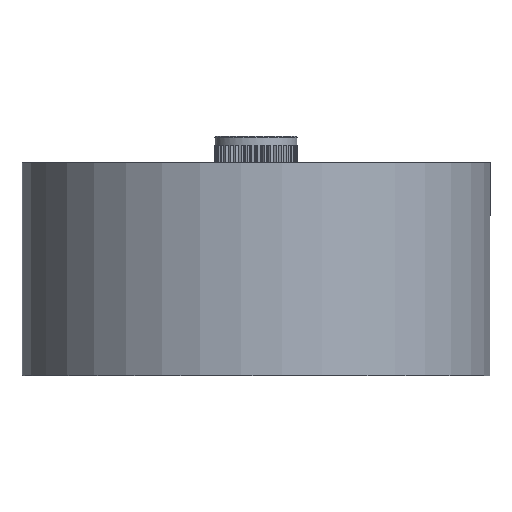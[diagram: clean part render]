
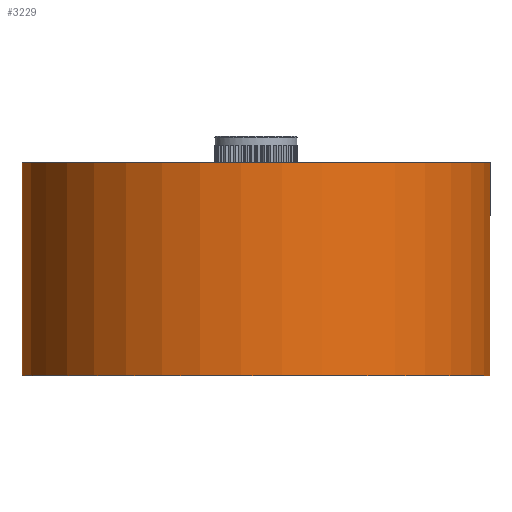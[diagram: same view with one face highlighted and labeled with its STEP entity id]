
A CAD part, front view. The second image highlights one B-rep face of the part: STEP entity #3229.
In plain terms, the highlighted cylindrical face has radius 22.5 mm (diameter 45 mm), a full revolution.
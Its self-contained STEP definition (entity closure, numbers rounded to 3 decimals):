
#2368=CARTESIAN_POINT('',(12.493,18.713,13.856));
#2369=VERTEX_POINT('',#2368);
#2370=CARTESIAN_POINT('',(0.,0.,13.856));
#2371=DIRECTION('',(0.0,0.0,-1.0));
#2372=DIRECTION('',(-0.555,-0.832,0.0));
#2373=AXIS2_PLACEMENT_3D('',#2370,#2371,#2372);
#2374=CIRCLE('',#2373,22.5);
#2375=EDGE_CURVE('',#2369,#2369,#2374,.F.);
#3210=CARTESIAN_POINT('',(0.,0.,-6.604));
#3211=DIRECTION('',(0.0,0.0,1.0));
#3212=DIRECTION('',(-0.555,-0.832,0.0));
#3213=AXIS2_PLACEMENT_3D('',#3210,#3211,#3212);
#3214=CYLINDRICAL_SURFACE('',#3213,22.5);
#3215=ORIENTED_EDGE('',*,*,#2375,.F.);
#3216=EDGE_LOOP('',(#3215));
#3217=FACE_OUTER_BOUND('',#3216,.T.);
#3218=CARTESIAN_POINT('',(12.493,18.713,-6.604));
#3219=VERTEX_POINT('',#3218);
#3220=CARTESIAN_POINT('',(0.,0.,-6.604));
#3221=DIRECTION('',(0.0,0.0,1.0));
#3222=DIRECTION('',(-0.555,-0.832,0.0));
#3223=AXIS2_PLACEMENT_3D('',#3220,#3221,#3222);
#3224=CIRCLE('',#3223,22.5);
#3225=EDGE_CURVE('',#3219,#3219,#3224,.F.);
#3226=ORIENTED_EDGE('',*,*,#3225,.F.);
#3227=EDGE_LOOP('',(#3226));
#3228=FACE_BOUND('',#3227,.T.);
#3229=ADVANCED_FACE('',(#3217,#3228),#3214,.T.);
